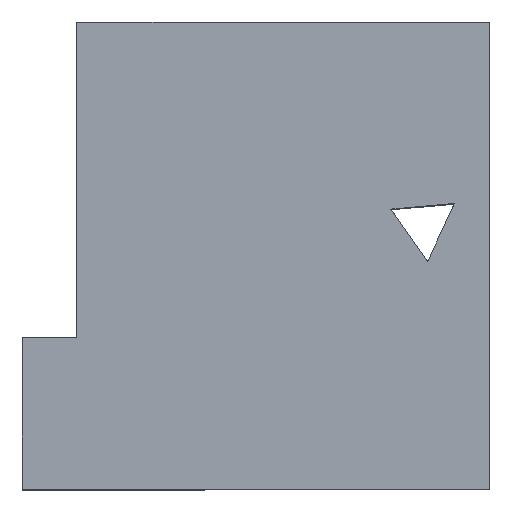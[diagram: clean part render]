
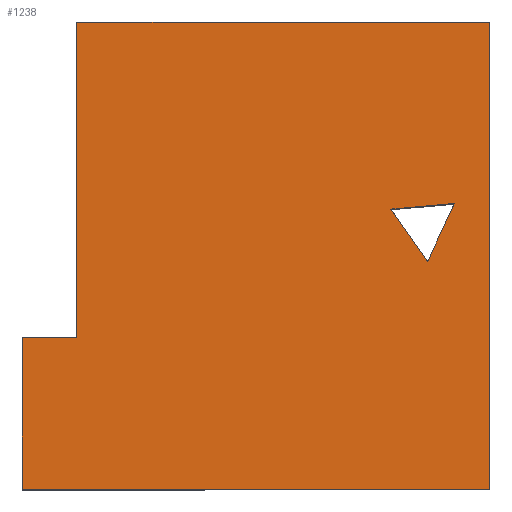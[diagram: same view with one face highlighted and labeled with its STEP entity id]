
A CAD part, top view. The second image highlights one B-rep face of the part: STEP entity #1238.
In plain terms, the highlighted planar face has unit normal (0, 0, 1).
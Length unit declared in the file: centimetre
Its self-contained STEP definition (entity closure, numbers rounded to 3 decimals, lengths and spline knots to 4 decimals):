
#22 = DIRECTION ( 'NONE',  ( 0., 1., 0. ) ) ;
#26 = CARTESIAN_POINT ( 'NONE',  ( 924.7475, 611.6277, 1000. ) ) ;
#28 = DIRECTION ( 'NONE',  ( -1., 0., 0. ) ) ;
#52 = CARTESIAN_POINT ( 'NONE',  ( 788.8905, 599.3852, 1000. ) ) ;
#100 = EDGE_CURVE ( 'NONE', #1104, #1408, #681, .T. ) ;
#102 = CARTESIAN_POINT ( 'NONE',  ( 1000., 1000., 1000. ) ) ;
#104 = ORIENTED_EDGE ( 'NONE', *, *, #1824, .T. ) ;
#144 = LINE ( 'NONE', #922, #611 ) ;
#153 = LINE ( 'NONE', #1904, #1155 ) ;
#180 = LINE ( 'NONE', #809, #1218 ) ;
#229 = ORIENTED_EDGE ( 'NONE', *, *, #974, .T. ) ;
#314 = VERTEX_POINT ( 'NONE', #486 ) ;
#321 = VERTEX_POINT ( 'NONE', #1271 ) ;
#323 = DIRECTION ( 'NONE',  ( 1., 0., 0. ) ) ;
#362 = ORIENTED_EDGE ( 'NONE', *, *, #1159, .T. ) ;
#374 = ORIENTED_EDGE ( 'NONE', *, *, #1911, .F. ) ;
#486 = CARTESIAN_POINT ( 'NONE',  ( 867.4213, 487.8508, 1000. ) ) ;
#495 = CARTESIAN_POINT ( 'NONE',  ( 116.5689, 324.3593, 1000. ) ) ;
#510 = VECTOR ( 'NONE', #323, 100. ) ;
#518 = CARTESIAN_POINT ( 'NONE',  ( 1000., 0., 1000. ) ) ;
#554 = ORIENTED_EDGE ( 'NONE', *, *, #100, .T. ) ;
#569 = FACE_OUTER_BOUND ( 'NONE', #1378, .T. ) ;
#580 = CARTESIAN_POINT ( 'NONE',  ( 788.8905, 599.3852, 1000. ) ) ;
#611 = VECTOR ( 'NONE', #1532, 100. ) ;
#654 = DIRECTION ( 'NONE',  ( 0.996, 0.09, 0. ) ) ;
#681 = LINE ( 'NONE', #1806, #766 ) ;
#711 = EDGE_CURVE ( 'NONE', #1104, #321, #1719, .T. ) ;
#764 = AXIS2_PLACEMENT_3D ( 'NONE', #886, #998, #1057 ) ;
#766 = VECTOR ( 'NONE', #1330, 100. ) ;
#809 = CARTESIAN_POINT ( 'NONE',  ( 0., 1000., 1000. ) ) ;
#851 = VERTEX_POINT ( 'NONE', #102 ) ;
#886 = CARTESIAN_POINT ( 'NONE',  ( 0., 0., 1000. ) ) ;
#922 = CARTESIAN_POINT ( 'NONE',  ( 0., 0., 1000. ) ) ;
#969 = DIRECTION ( 'NONE',  ( 0., 1., 0. ) ) ;
#974 = EDGE_CURVE ( 'NONE', #1239, #314, #1406, .T. ) ;
#998 = DIRECTION ( 'NONE',  ( 0., 0., 1. ) ) ;
#1057 = DIRECTION ( 'NONE',  ( 1., 0., 0. ) ) ;
#1060 = VERTEX_POINT ( 'NONE', #1112 ) ;
#1062 = EDGE_CURVE ( 'NONE', #314, #1668, #1130, .T. ) ;
#1095 = VECTOR ( 'NONE', #969, 100. ) ;
#1104 = VERTEX_POINT ( 'NONE', #1743 ) ;
#1112 = CARTESIAN_POINT ( 'NONE',  ( 116.5689, 1000., 1000. ) ) ;
#1130 = LINE ( 'NONE', #52, #1676 ) ;
#1155 = VECTOR ( 'NONE', #22, 100. ) ;
#1159 = EDGE_CURVE ( 'NONE', #851, #1060, #180, .T. ) ;
#1188 = FACE_BOUND ( 'NONE', #1331, .T. ) ;
#1212 = CARTESIAN_POINT ( 'NONE',  ( 867.4213, 487.8508, 1000. ) ) ;
#1218 = VECTOR ( 'NONE', #28, 100. ) ;
#1238 = ADVANCED_FACE ( 'NONE', ( #569, #1188 ), #1803, .T. ) ;
#1239 = VERTEX_POINT ( 'NONE', #1845 ) ;
#1271 = CARTESIAN_POINT ( 'NONE',  ( 116.5689, 324.3593, 1000. ) ) ;
#1330 = DIRECTION ( 'NONE',  ( 0., -1., 0. ) ) ;
#1331 = EDGE_LOOP ( 'NONE', ( #229, #1576, #1649 ) ) ;
#1378 = EDGE_LOOP ( 'NONE', ( #374, #1787, #554, #1914, #104, #362 ) ) ;
#1406 = LINE ( 'NONE', #1212, #1547 ) ;
#1408 = VERTEX_POINT ( 'NONE', #1448 ) ;
#1448 = CARTESIAN_POINT ( 'NONE',  ( 0., 0., 1000. ) ) ;
#1471 = EDGE_CURVE ( 'NONE', #1668, #1239, #1756, .T. ) ;
#1532 = DIRECTION ( 'NONE',  ( 1., 0., 0. ) ) ;
#1547 = VECTOR ( 'NONE', #1827, 100. ) ;
#1576 = ORIENTED_EDGE ( 'NONE', *, *, #1062, .T. ) ;
#1644 = VECTOR ( 'NONE', #654, 100. ) ;
#1649 = ORIENTED_EDGE ( 'NONE', *, *, #1471, .T. ) ;
#1668 = VERTEX_POINT ( 'NONE', #580 ) ;
#1676 = VECTOR ( 'NONE', #1883, 100. ) ;
#1710 = CARTESIAN_POINT ( 'NONE',  ( 0., 324.3593, 1000. ) ) ;
#1719 = LINE ( 'NONE', #1710, #510 ) ;
#1728 = LINE ( 'NONE', #495, #1095 ) ;
#1743 = CARTESIAN_POINT ( 'NONE',  ( 0., 324.3593, 1000. ) ) ;
#1756 = LINE ( 'NONE', #26, #1644 ) ;
#1787 = ORIENTED_EDGE ( 'NONE', *, *, #711, .F. ) ;
#1803 = PLANE ( 'NONE',  #764 ) ;
#1806 = CARTESIAN_POINT ( 'NONE',  ( 0., 1000., 1000. ) ) ;
#1824 = EDGE_CURVE ( 'NONE', #1887, #851, #153, .T. ) ;
#1827 = DIRECTION ( 'NONE',  ( -0.42, -0.907, 0. ) ) ;
#1845 = CARTESIAN_POINT ( 'NONE',  ( 924.7475, 611.6277, 1000. ) ) ;
#1883 = DIRECTION ( 'NONE',  ( -0.576, 0.818, 0. ) ) ;
#1887 = VERTEX_POINT ( 'NONE', #518 ) ;
#1904 = CARTESIAN_POINT ( 'NONE',  ( 1000., 1000., 1000. ) ) ;
#1911 = EDGE_CURVE ( 'NONE', #321, #1060, #1728, .T. ) ;
#1914 = ORIENTED_EDGE ( 'NONE', *, *, #2015, .T. ) ;
#2015 = EDGE_CURVE ( 'NONE', #1408, #1887, #144, .T. ) ;
